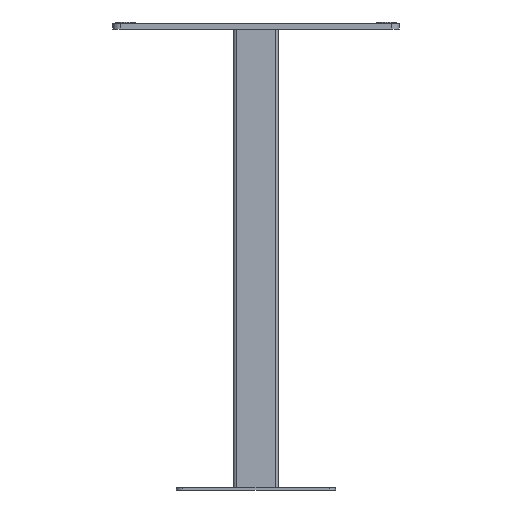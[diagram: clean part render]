
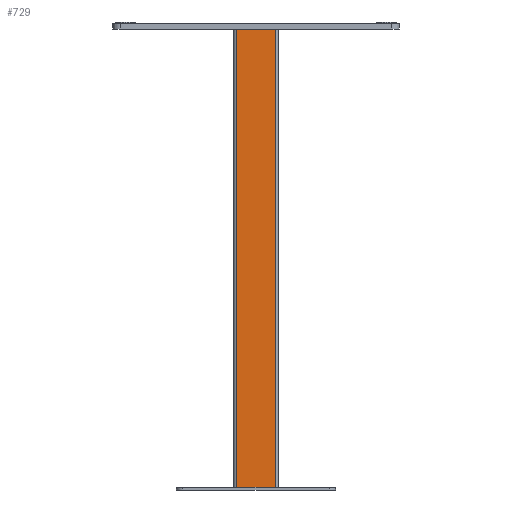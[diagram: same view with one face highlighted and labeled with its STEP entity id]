
A CAD part, left-side view. The second image highlights one B-rep face of the part: STEP entity #729.
In plain terms, the highlighted planar face has unit normal (-1, 0, 0).
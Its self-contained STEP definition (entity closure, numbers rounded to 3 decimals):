
#37 = ORIENTED_EDGE ( 'NONE', *, *, #361, .T. ) ;
#167 = CARTESIAN_POINT ( 'NONE',  ( -260., 30., -720. ) ) ;
#194 = VECTOR ( 'NONE', #2926, 1000. ) ;
#245 = VECTOR ( 'NONE', #3193, 1000. ) ;
#319 = LINE ( 'NONE', #3546, #925 ) ;
#359 = CARTESIAN_POINT ( 'NONE',  ( -260., -30., -720. ) ) ;
#361 = EDGE_CURVE ( 'NONE', #1535, #2792, #1132, .T. ) ;
#396 = LINE ( 'NONE', #359, #2977 ) ;
#729 = ADVANCED_FACE ( 'NONE', ( #3590 ), #941, .F. ) ;
#925 = VECTOR ( 'NONE', #2987, 1000. ) ;
#941 = PLANE ( 'NONE',  #1941 ) ;
#1003 = CARTESIAN_POINT ( 'NONE',  ( -260., -30., -720. ) ) ;
#1125 = VERTEX_POINT ( 'NONE', #1851 ) ;
#1132 = LINE ( 'NONE', #2305, #245 ) ;
#1346 = ORIENTED_EDGE ( 'NONE', *, *, #2851, .F. ) ;
#1535 = VERTEX_POINT ( 'NONE', #1628 ) ;
#1551 = DIRECTION ( 'NONE',  ( 0., -1., 0. ) ) ;
#1556 = ORIENTED_EDGE ( 'NONE', *, *, #2476, .F. ) ;
#1628 = CARTESIAN_POINT ( 'NONE',  ( -260., -30., -720. ) ) ;
#1778 = DIRECTION ( 'NONE',  ( 1., 0., 0. ) ) ;
#1851 = CARTESIAN_POINT ( 'NONE',  ( -260., 30., 0. ) ) ;
#1941 = AXIS2_PLACEMENT_3D ( 'NONE', #1003, #1778, #2939 ) ;
#2247 = VERTEX_POINT ( 'NONE', #167 ) ;
#2305 = CARTESIAN_POINT ( 'NONE',  ( -260., -30., -720. ) ) ;
#2368 = LINE ( 'NONE', #3188, #194 ) ;
#2476 = EDGE_CURVE ( 'NONE', #1125, #2792, #2368, .T. ) ;
#2544 = EDGE_CURVE ( 'NONE', #2247, #1535, #396, .T. ) ;
#2632 = EDGE_LOOP ( 'NONE', ( #1556, #1346, #3579, #37 ) ) ;
#2792 = VERTEX_POINT ( 'NONE', #3514 ) ;
#2851 = EDGE_CURVE ( 'NONE', #2247, #1125, #319, .T. ) ;
#2926 = DIRECTION ( 'NONE',  ( 0., -1., 0. ) ) ;
#2939 = DIRECTION ( 'NONE',  ( 0., 0., 1. ) ) ;
#2977 = VECTOR ( 'NONE', #1551, 1000. ) ;
#2987 = DIRECTION ( 'NONE',  ( 0., 0., 1. ) ) ;
#3188 = CARTESIAN_POINT ( 'NONE',  ( -260., -30., 0. ) ) ;
#3193 = DIRECTION ( 'NONE',  ( 0., 0., 1. ) ) ;
#3514 = CARTESIAN_POINT ( 'NONE',  ( -260., -30., 0. ) ) ;
#3546 = CARTESIAN_POINT ( 'NONE',  ( -260., 30., -720. ) ) ;
#3579 = ORIENTED_EDGE ( 'NONE', *, *, #2544, .T. ) ;
#3590 = FACE_OUTER_BOUND ( 'NONE', #2632, .T. ) ;
